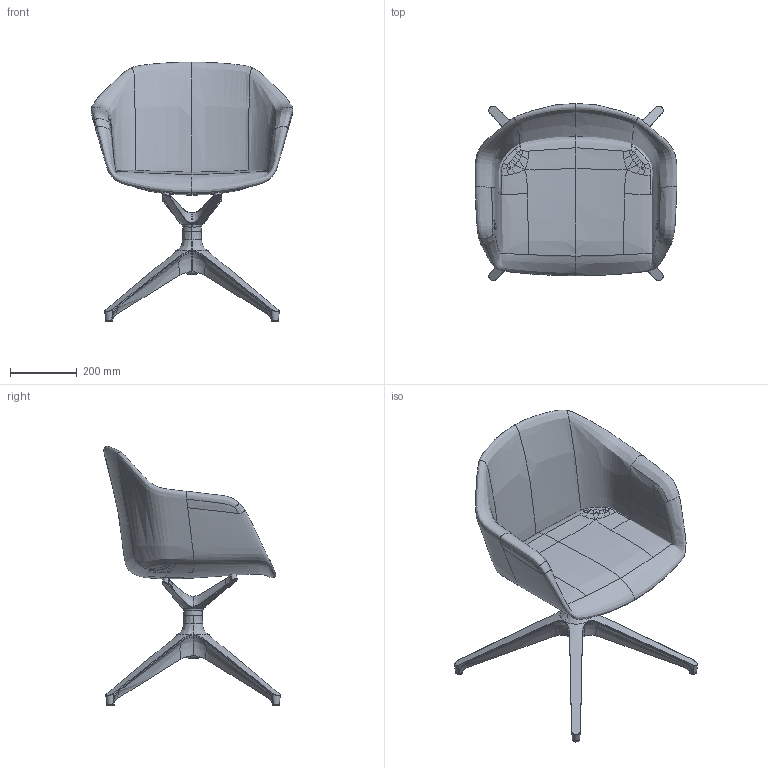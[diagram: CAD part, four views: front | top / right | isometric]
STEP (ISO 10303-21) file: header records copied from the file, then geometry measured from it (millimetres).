
FILE_DESCRIPTION(/* description */ (''),/* implementation_level */ '2;1');
FILE_NAME(/* name */ 'RIVA RI-02,F01-BL',/* time_stamp */ '2024-08-29T23:40:05+02:00',/* author */ (''),/* organization */ (''),/* preprocessor_version */ 'ST-DEVELOPER v16.5',/* originating_system */ 'Rhino 7.37',/* authorisation */ '');
FILE_SCHEMA (('CONFIG_CONTROL_DESIGN'));
Length unit declared in the file: millimetre
Products named in the file (1): Document
Bounding box: 604.45 x 528.43 x 777.22 mm (x, y, z)
Surface area: 1342148.2 mm2 (no closed solid volume)
Topology: 0 solids, 16 shells, 293 faces, 783 edges, 501 vertices
Faces by surface type: bspline 254, plane 22, cylinder 17
Full cylindrical faces by diameter (mm): 22 x4, 46 x1
Entity records: 33868 total; most frequent: CARTESIAN_POINT 29227, ORIENTED_EDGE 1440, EDGE_CURVE 773, B_SPLINE_CURVE_WITH_KNOTS 621, VERTEX_POINT 495, ADVANCED_FACE 293, FACE_OUTER_BOUND 293, EDGE_LOOP 293
